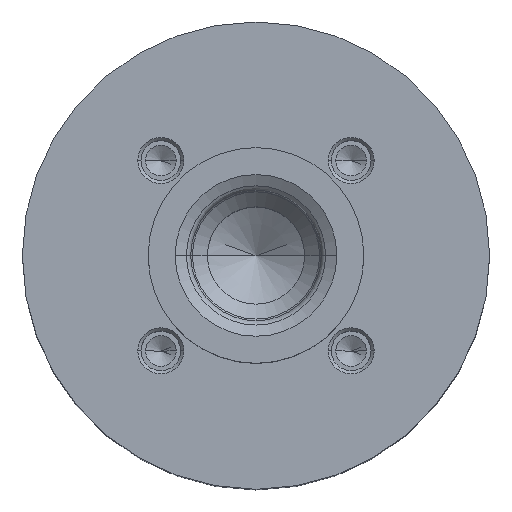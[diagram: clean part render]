
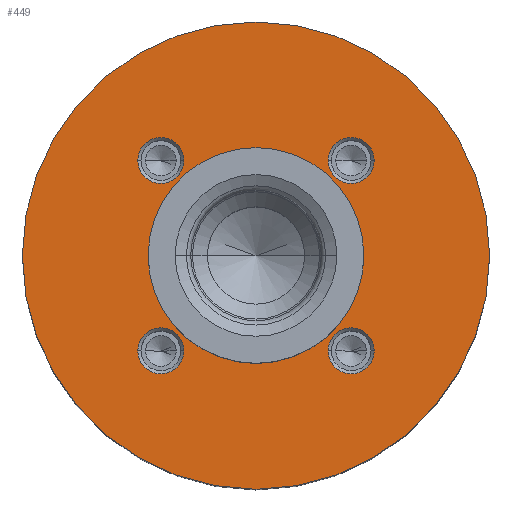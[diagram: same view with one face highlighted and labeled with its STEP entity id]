
A CAD part, top view. The second image highlights one B-rep face of the part: STEP entity #449.
In plain terms, the highlighted planar face has unit normal (0, 0, 1).
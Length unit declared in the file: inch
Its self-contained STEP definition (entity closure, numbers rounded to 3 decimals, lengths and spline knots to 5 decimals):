
#44 = EDGE_CURVE ( 'NONE', #746, #743, #485, .T. ) ;
#45 = ORIENTED_EDGE ( 'NONE', *, *, #745, .F. ) ;
#46 = EDGE_LOOP ( 'NONE', ( #97, #98 ) ) ;
#59 = ORIENTED_EDGE ( 'NONE', *, *, #44, .F. ) ;
#97 = ORIENTED_EDGE ( 'NONE', *, *, #428, .T. ) ;
#98 = ORIENTED_EDGE ( 'NONE', *, *, #99, .T. ) ;
#99 = EDGE_CURVE ( 'NONE', #413, #429, #762, .T. ) ;
#100 = EDGE_LOOP ( 'NONE', ( #101, #102 ) ) ;
#101 = ORIENTED_EDGE ( 'NONE', *, *, #437, .T. ) ;
#102 = ORIENTED_EDGE ( 'NONE', *, *, #197, .T. ) ;
#197 = EDGE_CURVE ( 'NONE', #198, #199, #900, .T. ) ;
#198 = VERTEX_POINT ( 'NONE', #891 ) ;
#199 = VERTEX_POINT ( 'NONE', #890 ) ;
#329 = VERTEX_POINT ( 'NONE', #1032 ) ;
#331 = EDGE_CURVE ( 'NONE', #329, #332, #1031, .T. ) ;
#332 = VERTEX_POINT ( 'NONE', #1026 ) ;
#413 = VERTEX_POINT ( 'NONE', #1429 ) ;
#414 = ORIENTED_EDGE ( 'NONE', *, *, #331, .F. ) ;
#415 = EDGE_LOOP ( 'NONE', ( #416, #418 ) ) ;
#416 = ORIENTED_EDGE ( 'NONE', *, *, #417, .F. ) ;
#417 = EDGE_CURVE ( 'NONE', #538, #646, #1428, .T. ) ;
#418 = ORIENTED_EDGE ( 'NONE', *, *, #537, .F. ) ;
#419 = EDGE_LOOP ( 'NONE', ( #420, #422 ) ) ;
#420 = ORIENTED_EDGE ( 'NONE', *, *, #421, .F. ) ;
#421 = EDGE_CURVE ( 'NONE', #733, #730, #1423, .T. ) ;
#422 = ORIENTED_EDGE ( 'NONE', *, *, #732, .F. ) ;
#423 = EDGE_LOOP ( 'NONE', ( #59, #45 ) ) ;
#428 = EDGE_CURVE ( 'NONE', #429, #413, #1476, .T. ) ;
#429 = VERTEX_POINT ( 'NONE', #1471 ) ;
#437 = EDGE_CURVE ( 'NONE', #199, #198, #1458, .T. ) ;
#449 = ADVANCED_FACE ( 'NONE', ( #1405, #1404, #1403, #1402, #1401, #1400 ), #1398, .F. ) ;
#450 = EDGE_LOOP ( 'NONE', ( #451, #414 ) ) ;
#451 = ORIENTED_EDGE ( 'NONE', *, *, #452, .F. ) ;
#452 = EDGE_CURVE ( 'NONE', #332, #329, #1347, .T. ) ;
#482 = DIRECTION ( 'NONE',  ( 1., 0., 0. ) ) ;
#483 = DIRECTION ( 'NONE',  ( 0., 0., 1. ) ) ;
#484 = AXIS2_PLACEMENT_3D ( 'NONE', #683, #483, #482 ) ;
#485 = CIRCLE ( 'NONE', #484, 0.08 ) ;
#537 = EDGE_CURVE ( 'NONE', #646, #538, #1392, .T. ) ;
#538 = VERTEX_POINT ( 'NONE', #1387 ) ;
#646 = VERTEX_POINT ( 'NONE', #1510 ) ;
#683 = CARTESIAN_POINT ( 'NONE',  ( -0.331, 0.331, 0. ) ) ;
#730 = VERTEX_POINT ( 'NONE', #1713 ) ;
#732 = EDGE_CURVE ( 'NONE', #730, #733, #1712, .T. ) ;
#733 = VERTEX_POINT ( 'NONE', #1707 ) ;
#743 = VERTEX_POINT ( 'NONE', #1749 ) ;
#745 = EDGE_CURVE ( 'NONE', #743, #746, #1748, .T. ) ;
#746 = VERTEX_POINT ( 'NONE', #1743 ) ;
#758 = DIRECTION ( 'NONE',  ( 1., 0., 0. ) ) ;
#759 = DIRECTION ( 'NONE',  ( 0., 0., 1. ) ) ;
#760 = CARTESIAN_POINT ( 'NONE',  ( 0., 0., 0. ) ) ;
#761 = AXIS2_PLACEMENT_3D ( 'NONE', #760, #759, #758 ) ;
#762 = CIRCLE ( 'NONE', #761, 0.8125 ) ;
#890 = CARTESIAN_POINT ( 'NONE',  ( 0.375, 0., 0. ) ) ;
#891 = CARTESIAN_POINT ( 'NONE',  ( -0.375, 0., 0. ) ) ;
#892 = DIRECTION ( 'NONE',  ( -1., 0., 0. ) ) ;
#893 = DIRECTION ( 'NONE',  ( 0., 0., -1. ) ) ;
#894 = CARTESIAN_POINT ( 'NONE',  ( 0., 0., 0. ) ) ;
#895 = AXIS2_PLACEMENT_3D ( 'NONE', #894, #893, #892 ) ;
#900 = CIRCLE ( 'NONE', #895, 0.375 ) ;
#1026 = CARTESIAN_POINT ( 'NONE',  ( 0.411, -0.331, 0. ) ) ;
#1027 = DIRECTION ( 'NONE',  ( 1., 0., 0. ) ) ;
#1028 = DIRECTION ( 'NONE',  ( 0., 0., 1. ) ) ;
#1029 = CARTESIAN_POINT ( 'NONE',  ( 0.331, -0.331, 0. ) ) ;
#1030 = AXIS2_PLACEMENT_3D ( 'NONE', #1029, #1028, #1027 ) ;
#1031 = CIRCLE ( 'NONE', #1030, 0.08 ) ;
#1032 = CARTESIAN_POINT ( 'NONE',  ( 0.251, -0.331, 0. ) ) ;
#1344 = DIRECTION ( 'NONE',  ( 1., 0., 0. ) ) ;
#1345 = DIRECTION ( 'NONE',  ( 0., 0., 1. ) ) ;
#1346 = AXIS2_PLACEMENT_3D ( 'NONE', #1399, #1345, #1344 ) ;
#1347 = CIRCLE ( 'NONE', #1346, 0.08 ) ;
#1387 = CARTESIAN_POINT ( 'NONE',  ( -0.251, -0.331, 0. ) ) ;
#1388 = DIRECTION ( 'NONE',  ( 1., 0., 0. ) ) ;
#1389 = DIRECTION ( 'NONE',  ( 0., 0., 1. ) ) ;
#1390 = CARTESIAN_POINT ( 'NONE',  ( -0.331, -0.331, 0. ) ) ;
#1391 = AXIS2_PLACEMENT_3D ( 'NONE', #1390, #1389, #1388 ) ;
#1392 = CIRCLE ( 'NONE', #1391, 0.08 ) ;
#1394 = DIRECTION ( 'NONE',  ( -1., 0., 0. ) ) ;
#1395 = DIRECTION ( 'NONE',  ( 0., 0., -1. ) ) ;
#1396 = CARTESIAN_POINT ( 'NONE',  ( 0., 0., 0. ) ) ;
#1397 = AXIS2_PLACEMENT_3D ( 'NONE', #1396, #1395, #1394 ) ;
#1398 = PLANE ( 'NONE',  #1397 ) ;
#1399 = CARTESIAN_POINT ( 'NONE',  ( 0.331, -0.331, 0. ) ) ;
#1400 = FACE_BOUND ( 'NONE', #100, .T. ) ;
#1401 = FACE_OUTER_BOUND ( 'NONE', #46, .T. ) ;
#1402 = FACE_BOUND ( 'NONE', #423, .T. ) ;
#1403 = FACE_BOUND ( 'NONE', #419, .T. ) ;
#1404 = FACE_BOUND ( 'NONE', #415, .T. ) ;
#1405 = FACE_BOUND ( 'NONE', #450, .T. ) ;
#1419 = DIRECTION ( 'NONE',  ( 1., 0., 0. ) ) ;
#1420 = DIRECTION ( 'NONE',  ( 0., 0., 1. ) ) ;
#1421 = CARTESIAN_POINT ( 'NONE',  ( 0.331, 0.331, 0. ) ) ;
#1422 = AXIS2_PLACEMENT_3D ( 'NONE', #1421, #1420, #1419 ) ;
#1423 = CIRCLE ( 'NONE', #1422, 0.08 ) ;
#1424 = DIRECTION ( 'NONE',  ( 1., 0., 0. ) ) ;
#1425 = DIRECTION ( 'NONE',  ( 0., 0., 1. ) ) ;
#1426 = CARTESIAN_POINT ( 'NONE',  ( -0.331, -0.331, 0. ) ) ;
#1427 = AXIS2_PLACEMENT_3D ( 'NONE', #1426, #1425, #1424 ) ;
#1428 = CIRCLE ( 'NONE', #1427, 0.08 ) ;
#1429 = CARTESIAN_POINT ( 'NONE',  ( -0.8125, 0., 0. ) ) ;
#1455 = DIRECTION ( 'NONE',  ( -1., 0., 0. ) ) ;
#1456 = DIRECTION ( 'NONE',  ( 0., 0., -1. ) ) ;
#1457 = AXIS2_PLACEMENT_3D ( 'NONE', #1463, #1456, #1455 ) ;
#1458 = CIRCLE ( 'NONE', #1457, 0.375 ) ;
#1463 = CARTESIAN_POINT ( 'NONE',  ( 0., 0., 0. ) ) ;
#1471 = CARTESIAN_POINT ( 'NONE',  ( 0.8125, 0., 0. ) ) ;
#1472 = DIRECTION ( 'NONE',  ( 1., 0., 0. ) ) ;
#1473 = DIRECTION ( 'NONE',  ( 0., 0., 1. ) ) ;
#1474 = CARTESIAN_POINT ( 'NONE',  ( 0., 0., 0. ) ) ;
#1475 = AXIS2_PLACEMENT_3D ( 'NONE', #1474, #1473, #1472 ) ;
#1476 = CIRCLE ( 'NONE', #1475, 0.8125 ) ;
#1510 = CARTESIAN_POINT ( 'NONE',  ( -0.411, -0.331, 0. ) ) ;
#1707 = CARTESIAN_POINT ( 'NONE',  ( 0.411, 0.331, 0. ) ) ;
#1708 = DIRECTION ( 'NONE',  ( 1., 0., 0. ) ) ;
#1709 = DIRECTION ( 'NONE',  ( 0., 0., 1. ) ) ;
#1710 = CARTESIAN_POINT ( 'NONE',  ( 0.331, 0.331, 0. ) ) ;
#1711 = AXIS2_PLACEMENT_3D ( 'NONE', #1710, #1709, #1708 ) ;
#1712 = CIRCLE ( 'NONE', #1711, 0.08 ) ;
#1713 = CARTESIAN_POINT ( 'NONE',  ( 0.251, 0.331, 0. ) ) ;
#1743 = CARTESIAN_POINT ( 'NONE',  ( -0.251, 0.331, 0. ) ) ;
#1744 = DIRECTION ( 'NONE',  ( 1., 0., 0. ) ) ;
#1745 = DIRECTION ( 'NONE',  ( 0., 0., 1. ) ) ;
#1746 = CARTESIAN_POINT ( 'NONE',  ( -0.331, 0.331, 0. ) ) ;
#1747 = AXIS2_PLACEMENT_3D ( 'NONE', #1746, #1745, #1744 ) ;
#1748 = CIRCLE ( 'NONE', #1747, 0.08 ) ;
#1749 = CARTESIAN_POINT ( 'NONE',  ( -0.411, 0.331, 0. ) ) ;
